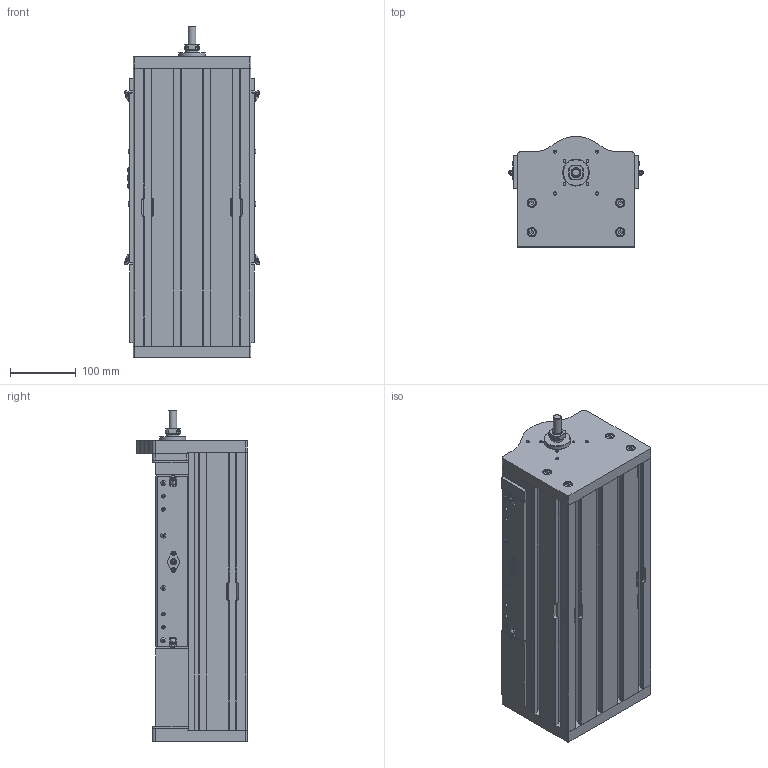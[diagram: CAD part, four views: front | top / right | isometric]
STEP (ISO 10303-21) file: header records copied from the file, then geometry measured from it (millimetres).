
FILE_DESCRIPTION(/* description */ ('Asse VU-K180LE-20H-20-S'),/* implementation_level */ '2;1');
FILE_NAME(/* name */ 'VU-K180LE-20H-20-S-CLIENTE.stp',/* time_stamp */ '2025-02-06T09:34:36+01:00',/* author */ ('davide.cavedon'),/* organization */ (''),/* preprocessor_version */ 'ST-DEVELOPER v20',/* originating_system */ 'Autodesk Inventor 2024',/* authorisation */ '');
FILE_SCHEMA (('CONFIG_CONTROL_DESIGN'));
Products named in the file (5): VU-K180LE-20H-20-S-CLIENTE; C_VU-K180LE-20H-20-S-001; C_VU-K180SE-20H-20-N-CLIENTE-002; C_VU-K180SE-20H-20-N-CLIENTE-003; C_VU-K180LE-20H-20-N-002
Assembly tree (4 placements, depth 2):
  VU-K180LE-20H-20-S-CLIENTE
    C_VU-K180LE-20H-20-S-001
    C_VU-K180SE-20H-20-N-CLIENTE-002
    C_VU-K180SE-20H-20-N-CLIENTE-003
    C_VU-K180LE-20H-20-N-002
Bounding box: 205.56 x 168.5 x 506.5 mm (x, y, z)
Volume: 10264485.9 mm3; surface area: 1029901.8 mm2
Topology: 9 solids, 98 shells, 3628 faces, 9400 edges, 6088 vertices
Faces by surface type: plane 2117, cylinder 925, cone 371, torus 105, bspline 104, sphere 6
Full cylindrical faces by diameter (mm): 0.5 x4, 1 x8, 2 x5, 2.459 x2, 2.5 x2, 3 x10, 3.242 x30, 3.5 x2, 4 x8, 4.134 x28, 4.25 x2, 4.3 x2, 4.5 x11, 4.917 x4, 4.95 x2, 5 x34, 5.15 x2, 5.5 x24, 5.7 x2, 5.85 x2, 6 x20, 6.6 x4, 6.647 x24, 6.9 x4, 7 x6, 7.3 x8, 7.6 x10, 7.847 x4, 8 x10, 8.15 x2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
Entity records: 123912 total; most frequent: CARTESIAN_POINT 32375, ORIENTED_EDGE 18516, DIRECTION 18397, EDGE_CURVE 9316, AXIS2_PLACEMENT_3D 6234, VERTEX_POINT 6088, LINE 5929, VECTOR 5929
